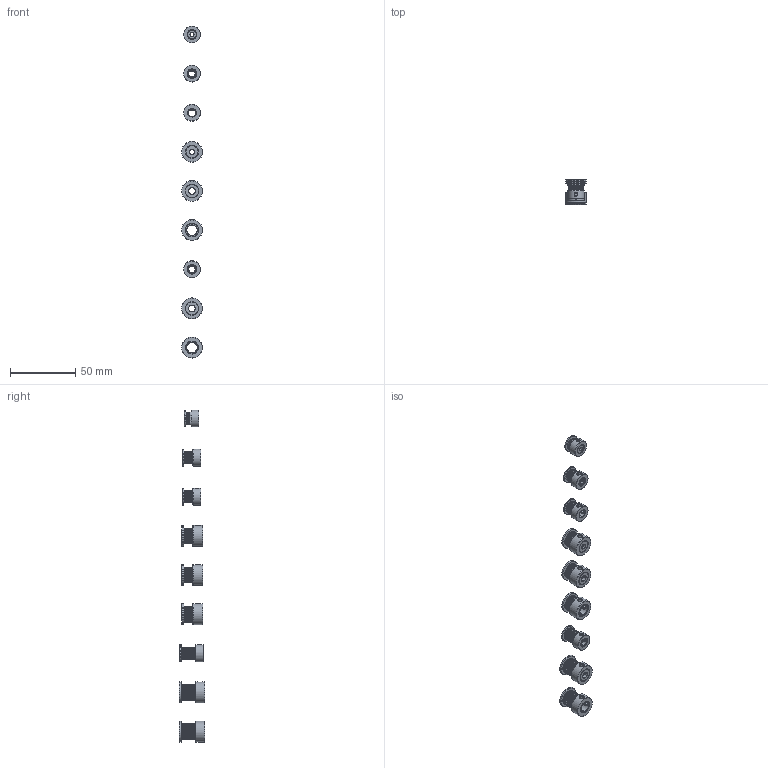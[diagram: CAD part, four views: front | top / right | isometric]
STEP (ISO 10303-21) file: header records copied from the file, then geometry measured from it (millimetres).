
FILE_DESCRIPTION (( 'STEP AP214' ), '1' );
FILE_NAME ('Configurable GT2 Timing Pulleys Lined Up.STEP', '2020-09-21T22:56:47', ( '' ), ( '' ), 'SwSTEP 2.0', 'SolidWorks 2018', '' );
FILE_SCHEMA (( 'AUTOMOTIVE_DESIGN' ));
Length unit declared in the file: millimetre
Products named in the file (39): Top Flange, GT2 Timing Pulley, Configurable_20T W10 B5; Body, GT2 Timing Pulley, Configurable_20T W6 B5; socket set screw flat point_am_B18.3.6M - M4 x 0.7 x 4 Hex Socket Flat Pt. SS --N; Top Flange, GT2 Timing Pulley, Configurable_16T W6 B6; GT2 Timing Pulley, Configurable_16T W10 B5; Body, GT2 Timing Pulley, Configurable_20T W6 B4; Top Flange, GT2 Timing Pulley, Configurable_16T W6 B5; Body, GT2 Timing Pulley, Configurable_16T W10 B5; Body, GT2 Timing Pulley, Configurable_16T W3 B3; Bottom Base, GT2 Timing Pulley, Configurable_16T W6 B5; GT2 Timing Pulley, Configurable_16T W6 B6; GT2 Timing Pulley, Configurable_20T W6 B5; GT2 Timing Pulley, Configurable_20T W10 B8; Bottom Base, GT2 Timing Pulley, Configurable_20T W6 B5; Body, GT2 Timing Pulley, Configurable_20T W6 B8; Top Flange, GT2 Timing Pulley, Configurable_16T W3 B3; Configurable GT2 Timing Pulleys Lined Up; Bottom Base, GT2 Timing Pulley, Configurable_16T W6 B6; Top Flange, GT2 Timing Pulley, Configurable_20T W6 B4; Body, GT2 Timing Pulley, Configurable_16T W6 B6; Top Flange, GT2 Timing Pulley, Configurable_20T W10 B8; Bottom Base, GT2 Timing Pulley, Configurable_20T W6 B8; Top Flange, GT2 Timing Pulley, Configurable_20T W6 B8; Bottom Base, GT2 Timing Pulley, Configurable_20T W10 B5; GT2 Timing Pulley, Configurable_20T W6 B4; GT2 Timing Pulley, Configurable_20T W10 B5; Bottom Base, GT2 Timing Pulley, Configurable_20T W6 B4; socket set screw flat point_am_B18.3.6M - M3 x 0.5 x 4 Hex Socket Flat Pt. SS --N; Body, GT2 Timing Pulley, Configurable_20T W10 B8; GT2 Timing Pulley, Configurable_16T W6 B5; Bottom Base, GT2 Timing Pulley, Configurable_20T W10 B8; Bottom Base, GT2 Timing Pulley, Configurable_16T W3 B3; Bottom Base, GT2 Timing Pulley, Configurable_16T W10 B5; GT2 Timing Pulley, Configurable_20T W6 B8; Body, GT2 Timing Pulley, Configurable_16T W6 B5; Top Flange, GT2 Timing Pulley, Configurable_20T W6 B5; GT2 Timing Pulley, Configurable_16T W3 B3; Top Flange, GT2 Timing Pulley, Configurable_16T W10 B5; Body, GT2 Timing Pulley, Configurable_20T W10 B5
Assembly tree (45 placements, depth 3):
  Configurable GT2 Timing Pulleys Lined Up
    GT2 Timing Pulley, Configurable_16T W3 B3
      Body, GT2 Timing Pulley, Configurable_16T W3 B3
      Top Flange, GT2 Timing Pulley, Configurable_16T W3 B3
      Bottom Base, GT2 Timing Pulley, Configurable_16T W3 B3
      socket set screw flat point_am_B18.3.6M - M3 x 0.5 x 4 Hex Socket Flat Pt. SS --N
    GT2 Timing Pulley, Configurable_16T W6 B5
      Body, GT2 Timing Pulley, Configurable_16T W6 B5
      Top Flange, GT2 Timing Pulley, Configurable_16T W6 B5
      Bottom Base, GT2 Timing Pulley, Configurable_16T W6 B5
      socket set screw flat point_am_B18.3.6M - M4 x 0.7 x 4 Hex Socket Flat Pt. SS --N
    GT2 Timing Pulley, Configurable_16T W6 B6
      Body, GT2 Timing Pulley, Configurable_16T W6 B6
      Top Flange, GT2 Timing Pulley, Configurable_16T W6 B6
      Bottom Base, GT2 Timing Pulley, Configurable_16T W6 B6
      socket set screw flat point_am_B18.3.6M - M4 x 0.7 x 4 Hex Socket Flat Pt. SS --N
    GT2 Timing Pulley, Configurable_20T W6 B4
      Body, GT2 Timing Pulley, Configurable_20T W6 B4
      Top Flange, GT2 Timing Pulley, Configurable_20T W6 B4
      Bottom Base, GT2 Timing Pulley, Configurable_20T W6 B4
      socket set screw flat point_am_B18.3.6M - M4 x 0.7 x 4 Hex Socket Flat Pt. SS --N
    GT2 Timing Pulley, Configurable_20T W6 B5
      Body, GT2 Timing Pulley, Configurable_20T W6 B5
      Top Flange, GT2 Timing Pulley, Configurable_20T W6 B5
      Bottom Base, GT2 Timing Pulley, Configurable_20T W6 B5
      socket set screw flat point_am_B18.3.6M - M4 x 0.7 x 4 Hex Socket Flat Pt. SS --N
    GT2 Timing Pulley, Configurable_20T W6 B8
      Body, GT2 Timing Pulley, Configurable_20T W6 B8
      Top Flange, GT2 Timing Pulley, Configurable_20T W6 B8
      Bottom Base, GT2 Timing Pulley, Configurable_20T W6 B8
      socket set screw flat point_am_B18.3.6M - M4 x 0.7 x 4 Hex Socket Flat Pt. SS --N
    GT2 Timing Pulley, Configurable_16T W10 B5
      Body, GT2 Timing Pulley, Configurable_16T W10 B5
      Top Flange, GT2 Timing Pulley, Configurable_16T W10 B5
      Bottom Base, GT2 Timing Pulley, Configurable_16T W10 B5
      socket set screw flat point_am_B18.3.6M - M3 x 0.5 x 4 Hex Socket Flat Pt. SS --N
    GT2 Timing Pulley, Configurable_20T W10 B5
      Body, GT2 Timing Pulley, Configurable_20T W10 B5
      Top Flange, GT2 Timing Pulley, Configurable_20T W10 B5
      Bottom Base, GT2 Timing Pulley, Configurable_20T W10 B5
      socket set screw flat point_am_B18.3.6M - M4 x 0.7 x 4 Hex Socket Flat Pt. SS --N
    GT2 Timing Pulley, Configurable_20T W10 B8
      Body, GT2 Timing Pulley, Configurable_20T W10 B8
      Top Flange, GT2 Timing Pulley, Configurable_20T W10 B8
      Bottom Base, GT2 Timing Pulley, Configurable_20T W10 B8
      socket set screw flat point_am_B18.3.6M - M4 x 0.7 x 4 Hex Socket Flat Pt. SS --N
Bounding box: 16 x 19.5 x 254.5 mm (x, y, z)
Volume: 14549.4 mm3; surface area: 18873.1 mm2
Topology: 36 solids, 36 shells, 1984 faces, 5483 edges, 3556 vertices
Faces by surface type: cylinder 1539, cone 288, plane 157
Entity records: 67519 total; most frequent: CARTESIAN_POINT 14439, DIRECTION 12073, ORIENTED_EDGE 10518, EDGE_CURVE 5259, AXIS2_PLACEMENT_3D 5106, VERTEX_POINT 3416, CIRCLE 3170, EDGE_LOOP 1983
